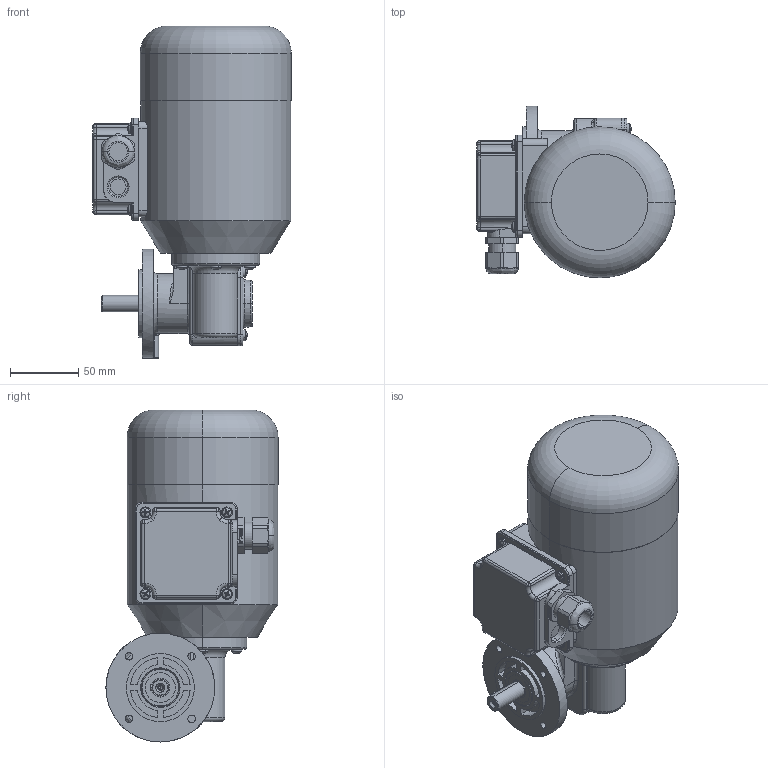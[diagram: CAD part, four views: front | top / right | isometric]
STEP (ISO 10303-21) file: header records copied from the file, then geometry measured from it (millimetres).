
FILE_DESCRIPTION (( 'STEP AP214' ), '1' );
FILE_NAME ('SN5FR_90W_Drehstrom-Motor_B.STEP', '2022-03-14T15:39:08', ( '' ), ( '' ), 'SwSTEP 2.0', 'SolidWorks 2019', '' );
FILE_SCHEMA (( 'AUTOMOTIVE_DESIGN' ));
Length unit declared in the file: millimetre
Products named in the file (10): PF_A4x4x20; pan head cross recess screw_din_DIN EN ISO 7045 - M4 x 16 - Z - 16C; 05FR-G-001_3D_Export; SN5FR_90W_Drehstrom-Motor_B; 05-M-150 I 90W_1400Upm; 05F-W-002_3D_Export; SN5FR_3D_Export_Standard 05F-W-002; NBR_WDR_12x28x7; 05FR-D-001_3D_Export; pan head cross recess screw_din_DIN EN ISO 7045 - M4 x 12 - Z - 12C
Assembly tree (14 placements, depth 3):
  SN5FR_90W_Drehstrom-Motor_B
    SN5FR_3D_Export_Standard 05F-W-002
      05FR-G-001_3D_Export
      05FR-D-001_3D_Export
      05F-W-002_3D_Export
      NBR_WDR_12x28x7
      PF_A4x4x20
      pan head cross recess screw_din_DIN EN ISO 7045 - M4 x 16 - Z - 16C  x3
      pan head cross recess screw_din_DIN EN ISO 7045 - M4 x 12 - Z - 12C  x4
    05-M-150 I 90W_1400Upm
Bounding box: 145.9 x 126.5 x 244 mm (x, y, z)
Volume: 1994016.9 mm3; surface area: 157595.8 mm2
Topology: 15 solids, 15 shells, 970 faces, 2463 edges, 1542 vertices
Faces by surface type: plane 336, cylinder 269, cone 144, torus 122, bspline 59, sphere 40
Entity records: 27333 total; most frequent: CARTESIAN_POINT 7488, DIRECTION 4158, ORIENTED_EDGE 4028, EDGE_CURVE 2014, AXIS2_PLACEMENT_3D 1675, VERTEX_POINT 1287, CIRCLE 916, EDGE_LOOP 879
